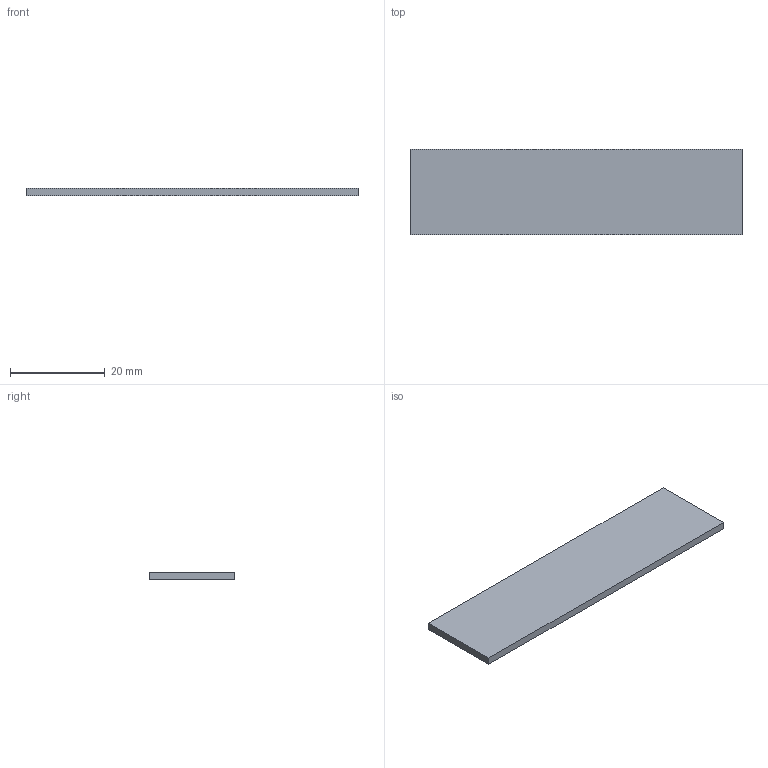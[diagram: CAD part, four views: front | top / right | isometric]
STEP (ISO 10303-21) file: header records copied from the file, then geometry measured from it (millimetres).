
FILE_DESCRIPTION(('Open CASCADE Model'),'2;1');
FILE_NAME('Open CASCADE Shape Model','2026-10-27T14:56:12',('Author'),( 'Open CASCADE'),'Open CASCADE STEP processor 7.8','Open CASCADE 7.8' ,'Unknown');
FILE_SCHEMA(('AUTOMOTIVE_DESIGN { 1 0 10303 214 1 1 1 1 }'));
Length unit declared in the file: millimetre
Products named in the file (1): Open CASCADE STEP translator 7.8 1
Bounding box: 70 x 18 x 1.6 mm (x, y, z)
Volume: 2016 mm3; surface area: 2801.6 mm2
Topology: 1 solids, 1 shells, 6 faces, 12 edges, 8 vertices
Faces by surface type: plane 6
Entity records: 322 total; most frequent: CARTESIAN_POINT 51, DIRECTION 50, LINE 36, VECTOR 36, ORIENTED_EDGE 24, PCURVE 24, DEFINITIONAL_REPRESENTATION 24, EDGE_CURVE 12
